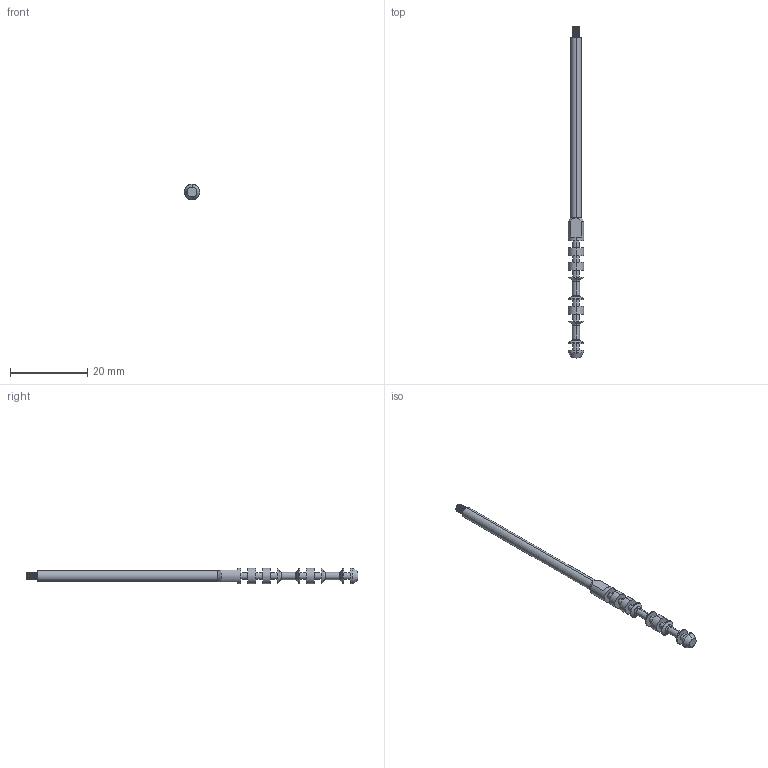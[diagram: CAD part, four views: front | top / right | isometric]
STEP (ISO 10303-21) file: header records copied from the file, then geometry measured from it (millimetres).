
FILE_DESCRIPTION (( 'STEP AP214' ), '1' );
FILE_NAME ('010601_LnG_valve-RC.STEP', '2023-07-28T20:43:57', ( '' ), ( '' ), 'SwSTEP 2.0', 'SolidWorks 2019', '' );
FILE_SCHEMA (( 'AUTOMOTIVE_DESIGN' ));
Length unit declared in the file: millimetre
Products named in the file (1): 010601_LnG_valve-RC
Bounding box: 4.04 x 86.05 x 4.04 mm (x, y, z)
Volume: 533 mm3; surface area: 912.6 mm2
Topology: 1 solids, 1 shells, 100 faces, 226 edges, 142 vertices
Faces by surface type: cylinder 52, plane 22, cone 15, torus 8, bspline 3
Entity records: 3714 total; most frequent: CARTESIAN_POINT 1484, DIRECTION 478, ORIENTED_EDGE 452, EDGE_CURVE 226, AXIS2_PLACEMENT_3D 203, VERTEX_POINT 142, EDGE_LOOP 114, CIRCLE 105
